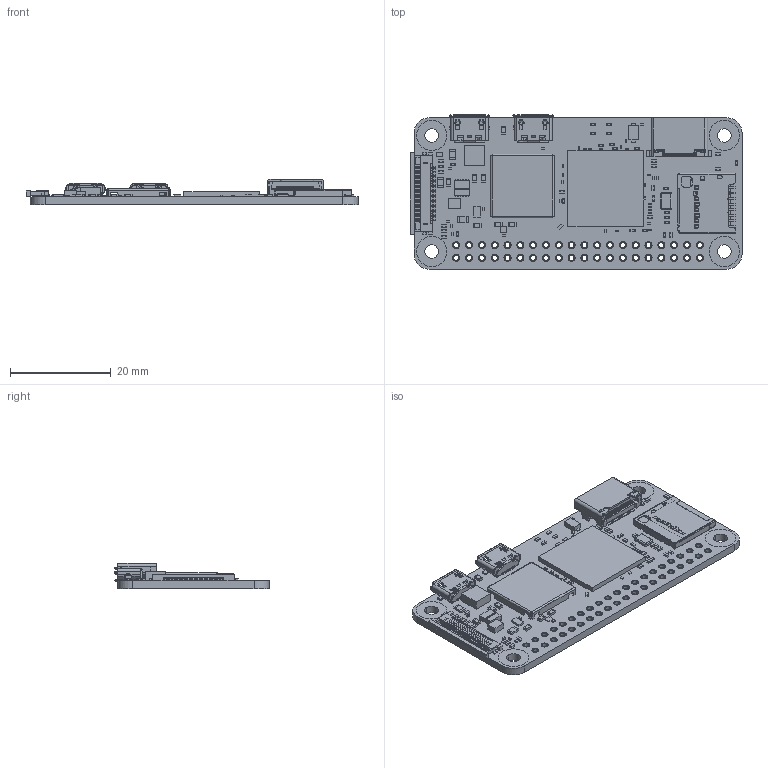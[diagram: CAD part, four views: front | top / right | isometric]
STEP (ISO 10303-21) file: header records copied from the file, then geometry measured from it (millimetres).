
FILE_DESCRIPTION(/* description */ (''),/* implementation_level */ '2;1');
FILE_NAME(/* name */ 'Raspberry Pi Zero 2 W with Textures',/* time_stamp */ '2024-12-09T11:34:28-05:00',/* author */ (''),/* organization */ (''),/* preprocessor_version */ 'ST-DEVELOPER v19.2',/* originating_system */ 'Rhino 8.13',/* authorisation */ '');
FILE_SCHEMA (('CONFIG_CONTROL_DESIGN'));
Products named in the file (1): Document
Bounding box: 65.8 x 30.58 x 5.05 mm (x, y, z)
Volume: 3653.8 mm3; surface area: 8751.8 mm2
Topology: 310 solids, 312 shells, 7120 faces, 18306 edges, 11672 vertices
Faces by surface type: plane 4465, cylinder 2016, bspline 639
Entity records: 259335 total; most frequent: CARTESIAN_POINT 107202, ORIENTED_EDGE 36454, EDGE_CURVE 18238, DIRECTION 15133, B_SPLINE_CURVE_WITH_KNOTS 13490, VERTEX_POINT 11672, AXIS2_PLACEMENT_3D 10807, EDGE_LOOP 7402
